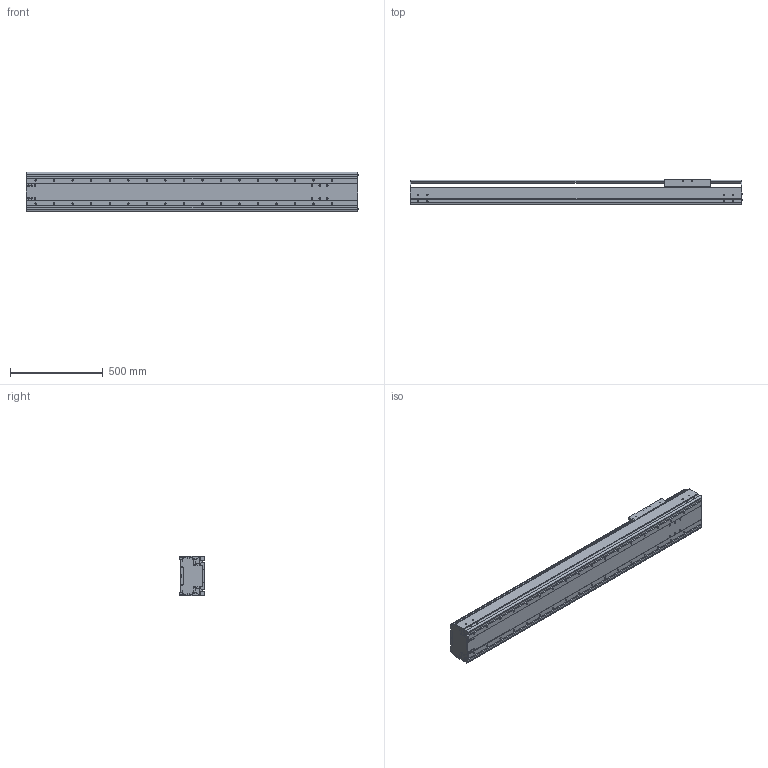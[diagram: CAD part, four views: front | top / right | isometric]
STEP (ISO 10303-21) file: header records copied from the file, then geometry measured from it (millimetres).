
FILE_DESCRIPTION((''),'2;1');
FILE_NAME('BE60J-ST-M_N-D0_IGS_PRT','2017-06-18T',(' '),(''),'PRO/ENGINEER BY PARAMETRIC TECHNOLOGY CORPORATION, 2015030','PRO/ENGINEER BY PARAMETRIC TECHNOLOGY CORPORATION, 2015030','');
FILE_SCHEMA(('CONFIG_CONTROL_DESIGN'));
Length unit declared in the file: millimetre
Products named in the file (1): BE60J-ST-M_N-D0_IGS_PRT
Bounding box: 1792.4 x 140 x 214 mm (x, y, z)
Volume: 13631647.7 mm3; surface area: 3739530.3 mm2
Topology: 2 solids, 124 shells, 1505 faces, 4248 edges, 2841 vertices
Faces by surface type: cylinder 790, plane 615, cone 52, sphere 24, torus 24
Entity records: 50917 total; most frequent: CARTESIAN_POINT 11456, DIRECTION 8212, ORIENTED_EDGE 7916, EDGE_CURVE 4198, AXIS2_PLACEMENT_3D 3066, VERTEX_POINT 2840, VECTOR 2080, LINE 2080
